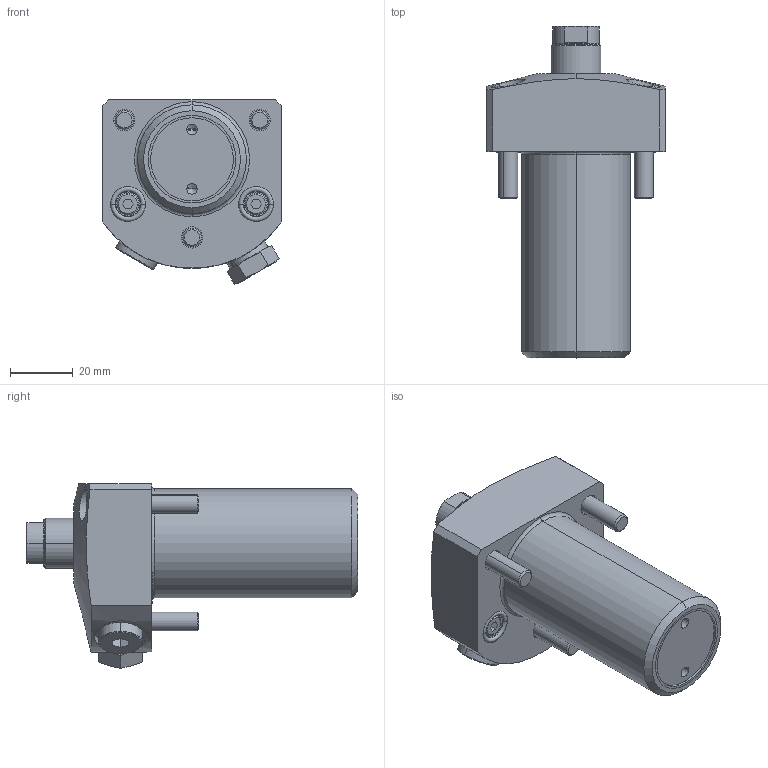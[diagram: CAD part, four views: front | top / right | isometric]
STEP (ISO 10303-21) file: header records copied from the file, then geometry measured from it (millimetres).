
FILE_DESCRIPTION((''),'2;1');
FILE_NAME('PUSS-52_ASM','2013-01-03T',('chad.steele'),(''),'PRO/ENGINEER BY PARAMETRIC TECHNOLOGY CORPORATION, 2010040','PRO/ENGINEER BY PARAMETRIC TECHNOLOGY CORPORATION, 2010040','');
FILE_SCHEMA(('CONFIG_CONTROL_DESIGN'));
Length unit declared in the file: inch
Products named in the file (11): PA1241005; PA1252044; PA1303167; CCA411028; B1011803; PA1249005; CCA625028; CS236006; PA1269024; PA1818040; PUSS-52_ASM
Assembly tree (15 placements, depth 2):
  PUSS-52_ASM
    PA1241005
    PA1252044
    PA1303167  x2
    CCA411028  x2
    B1011803  x2
    PA1249005
    CCA625028  x3
    CS236006
    PA1269024
    PA1818040
Bounding box: 57.15 x 106.17 x 59.08 mm (x, y, z)
Volume: 201573.8 mm3; surface area: 71214.5 mm2
Topology: 15 solids, 27 shells, 457 faces, 1022 edges, 638 vertices
Faces by surface type: cylinder 185, plane 140, cone 99, torus 28, bspline 4, sphere 1
Entity records: 12070 total; most frequent: CARTESIAN_POINT 2757, DIRECTION 2100, ORIENTED_EDGE 1692, AXIS2_PLACEMENT_3D 877, EDGE_CURVE 872, VERTEX_POINT 554, EDGE_LOOP 470, CIRCLE 454
